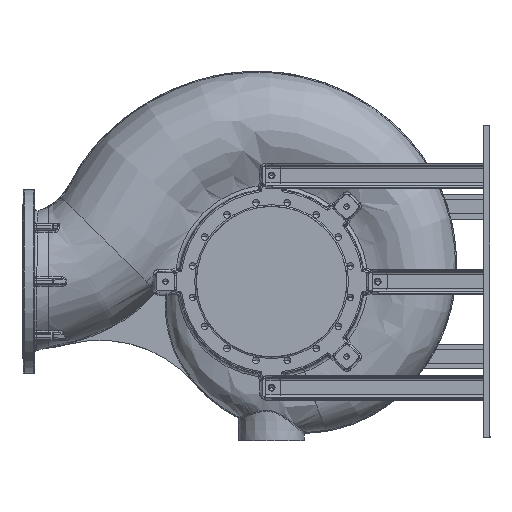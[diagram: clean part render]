
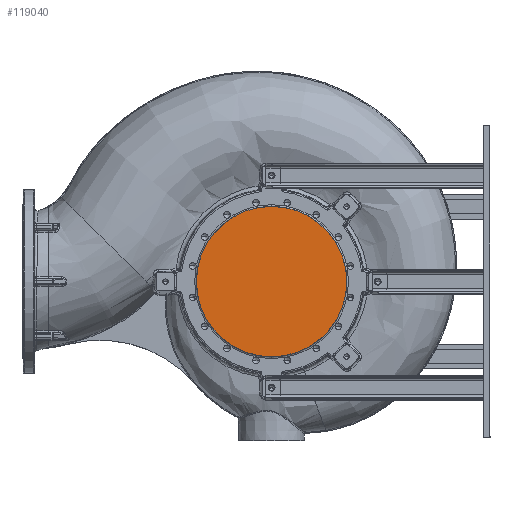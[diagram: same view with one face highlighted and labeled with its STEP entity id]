
A CAD part, left-side view. The second image highlights one B-rep face of the part: STEP entity #119040.
In plain terms, the highlighted planar face has unit normal (-1, 0, 0).
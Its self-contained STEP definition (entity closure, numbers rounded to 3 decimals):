
#2106 = EDGE_CURVE ( 'NONE', #73327, #33503, #19265, .T. ) ;
#15069 = CARTESIAN_POINT ( 'NONE',  ( 0., -800., 0. ) ) ;
#19265 = CIRCLE ( 'NONE', #69226, 241. ) ;
#26677 = DIRECTION ( 'NONE',  ( 0., 0., 1. ) ) ;
#32222 = CARTESIAN_POINT ( 'NONE',  ( 0., -800., 0. ) ) ;
#32525 = ORIENTED_EDGE ( 'NONE', *, *, #39463, .F. ) ;
#33503 = VERTEX_POINT ( 'NONE', #43587 ) ;
#33877 = CARTESIAN_POINT ( 'NONE',  ( 0., -800., 0. ) ) ;
#39463 = EDGE_CURVE ( 'NONE', #33503, #73327, #61998, .T. ) ;
#39560 = EDGE_LOOP ( 'NONE', ( #61979, #32525 ) ) ;
#43587 = CARTESIAN_POINT ( 'NONE',  ( 0., -800., -241. ) ) ;
#43861 = DIRECTION ( 'NONE',  ( 0., 0., 1. ) ) ;
#45506 = DIRECTION ( 'NONE',  ( 0., 0., 1. ) ) ;
#56991 = FACE_OUTER_BOUND ( 'NONE', #39560, .T. ) ;
#61979 = ORIENTED_EDGE ( 'NONE', *, *, #2106, .F. ) ;
#61998 = CIRCLE ( 'NONE', #72959, 241. ) ;
#69226 = AXIS2_PLACEMENT_3D ( 'NONE', #15069, #95852, #26677 ) ;
#72959 = AXIS2_PLACEMENT_3D ( 'NONE', #32222, #113098, #43861 ) ;
#73327 = VERTEX_POINT ( 'NONE', #125214 ) ;
#88607 = AXIS2_PLACEMENT_3D ( 'NONE', #33877, #114747, #45506 ) ;
#95852 = DIRECTION ( 'NONE',  ( 1., 0., 0. ) ) ;
#113098 = DIRECTION ( 'NONE',  ( 1., 0., 0. ) ) ;
#114747 = DIRECTION ( 'NONE',  ( 1., 0., 0. ) ) ;
#119040 = ADVANCED_FACE ( 'NONE', ( #56991 ), #125887, .F. ) ;
#125214 = CARTESIAN_POINT ( 'NONE',  ( 0., -800., 241. ) ) ;
#125887 = PLANE ( 'NONE',  #88607 ) ;
